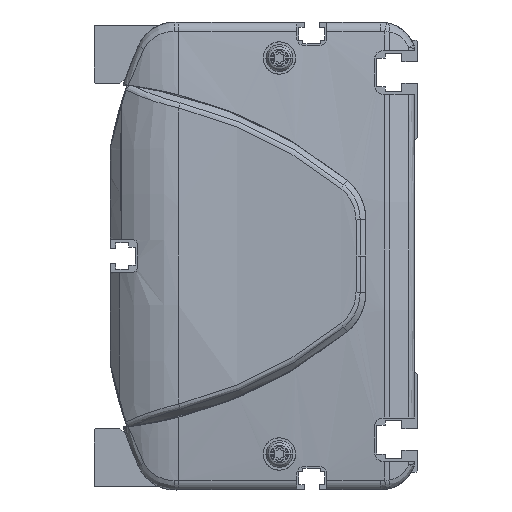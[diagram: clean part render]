
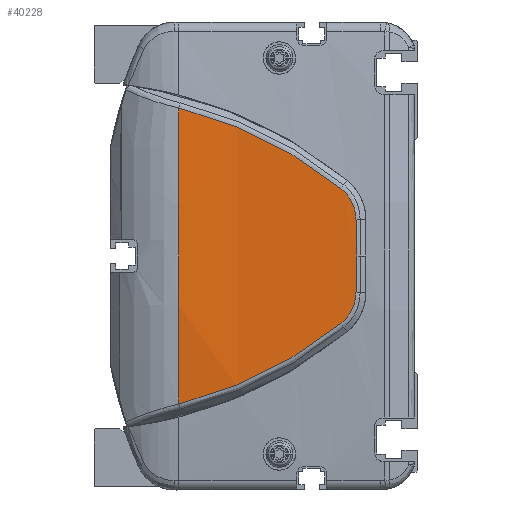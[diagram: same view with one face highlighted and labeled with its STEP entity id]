
A CAD part, left-side view. The second image highlights one B-rep face of the part: STEP entity #40228.
In plain terms, the highlighted cylindrical face has radius 500 mm (diameter 1000 mm), a partial arc.
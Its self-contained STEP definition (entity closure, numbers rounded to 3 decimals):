
#36484=CARTESIAN_POINT('',(486.,66.362,0.));
#36485=DIRECTION('',(0.,-1.,0.));
#36486=DIRECTION('',(-0.997,0.,0.082));
#36487=AXIS2_PLACEMENT_3D('',#36484,#36485,#36486);
#37368=CARTESIAN_POINT('',(-13.648,21.313,
-18.759));
#37369=CARTESIAN_POINT('',(-13.449,27.904,
-24.058));
#37370=CARTESIAN_POINT('',(-12.934,42.195,
-33.27));
#37371=CARTESIAN_POINT('',(-12.471,58.156,
-39.127));
#37372=CARTESIAN_POINT('',(-12.306,66.362,
-41.121));
#37374=CARTESIAN_POINT('',(-12.306,66.362,
41.121));
#37375=CARTESIAN_POINT('',(-12.471,58.156,
39.127));
#37376=CARTESIAN_POINT('',(-12.934,42.195,
33.27));
#37377=CARTESIAN_POINT('',(-13.449,27.904,
24.058));
#37378=CARTESIAN_POINT('',(-13.648,21.313,
18.759));
#37380=CARTESIAN_POINT('',(-13.648,21.313,
18.759));
#37381=CARTESIAN_POINT('',(-13.686,20.035,
17.736));
#37382=CARTESIAN_POINT('',(-13.779,17.936,
15.107));
#37383=CARTESIAN_POINT('',(-13.863,17.152,
11.827));
#37384=CARTESIAN_POINT('',(-13.896,17.124,
10.178));
#37386=CARTESIAN_POINT('',(-13.896,17.124,
10.178));
#37387=CARTESIAN_POINT('',(-13.92,17.107,
9.027));
#37388=CARTESIAN_POINT('',(-13.958,17.067,
6.738));
#37389=CARTESIAN_POINT('',(-13.993,16.98,
3.344));
#37390=CARTESIAN_POINT('',(-14.,16.898,
1.11));
#37391=CARTESIAN_POINT('',(-14.,16.849,
0.));
#37393=CARTESIAN_POINT('',(-14.,16.849,
0.));
#37394=CARTESIAN_POINT('',(-14.,16.898,
-1.11));
#37395=CARTESIAN_POINT('',(-13.993,16.98,
-3.344));
#37396=CARTESIAN_POINT('',(-13.959,17.067,
-6.737));
#37397=CARTESIAN_POINT('',(-13.92,17.107,
-9.029));
#37398=CARTESIAN_POINT('',(-13.896,17.124,
-10.18));
#37400=CARTESIAN_POINT('',(-13.896,17.124,
-10.18));
#37401=CARTESIAN_POINT('',(-13.863,17.152,
-11.828));
#37402=CARTESIAN_POINT('',(-13.779,17.937,
-15.109));
#37403=CARTESIAN_POINT('',(-13.686,20.035,
-17.736));
#37404=CARTESIAN_POINT('',(-13.648,21.313,
-18.759));
#38052=VERTEX_POINT('',#37368);
#38053=VERTEX_POINT('',#37372);
#38054=CARTESIAN_POINT('',(-12.306,66.362,
41.121));
#38055=VERTEX_POINT('',#38054);
#38056=VERTEX_POINT('',#37378);
#38057=VERTEX_POINT('',#37384);
#38058=VERTEX_POINT('',#37391);
#38059=VERTEX_POINT('',#37398);
#40209=CARTESIAN_POINT('',(486.,8.006,0.));
#40210=DIRECTION('',(0.,1.,0.));
#40211=DIRECTION('',(1.,0.,0.));
#40212=AXIS2_PLACEMENT_3D('',#40209,#40210,#40211);
#40213=CYLINDRICAL_SURFACE('',#40212,500.);
#40215=ORIENTED_EDGE('',*,*,#40214,.T.);
#40216=ORIENTED_EDGE('',*,*,#38854,.F.);
#40218=ORIENTED_EDGE('',*,*,#40217,.T.);
#40220=ORIENTED_EDGE('',*,*,#40219,.T.);
#40222=ORIENTED_EDGE('',*,*,#40221,.T.);
#40224=ORIENTED_EDGE('',*,*,#40223,.T.);
#40225=ORIENTED_EDGE('',*,*,#40199,.T.);
#40226=EDGE_LOOP('',(#40215,#40216,#40218,#40220,#40222,#40224,#40225));
#40227=FACE_OUTER_BOUND('',#40226,.F.);
#40228=ADVANCED_FACE('',(#40227),#40213,.T.);
#36488=CIRCLE('',#36487,500.);
#37373=B_SPLINE_CURVE_WITH_KNOTS('',3,(#37368,#37369,#37370,#37371,#37372),
.UNSPECIFIED.,.F.,.F.,(4,1,4),(0.,0.5,1.),.UNSPECIFIED.);
#37379=B_SPLINE_CURVE_WITH_KNOTS('',3,(#37374,#37375,#37376,#37377,#37378),
.UNSPECIFIED.,.F.,.F.,(4,1,4),(0.,0.5,1.),.UNSPECIFIED.);
#37385=B_SPLINE_CURVE_WITH_KNOTS('',3,(#37380,#37381,#37382,#37383,#37384),
.UNSPECIFIED.,.F.,.F.,(4,1,4),(0.,0.5,1.),.UNSPECIFIED.);
#37392=B_SPLINE_CURVE_WITH_KNOTS('',3,(#37386,#37387,#37388,#37389,#37390,
#37391),.UNSPECIFIED.,.F.,.F.,(4,1,1,4),(0.,0.333,
0.667,1.),.UNSPECIFIED.);
#37399=B_SPLINE_CURVE_WITH_KNOTS('',3,(#37393,#37394,#37395,#37396,#37397,
#37398),.UNSPECIFIED.,.F.,.F.,(4,1,1,4),(0.,0.333,
0.667,1.),.UNSPECIFIED.);
#37405=B_SPLINE_CURVE_WITH_KNOTS('',3,(#37400,#37401,#37402,#37403,#37404),
.UNSPECIFIED.,.F.,.F.,(4,1,4),(0.,0.5,1.),.UNSPECIFIED.);
#38854=EDGE_CURVE('',#38055,#38053,#36488,.T.);
#40199=EDGE_CURVE('',#38059,#38052,#37405,.T.);
#40214=EDGE_CURVE('',#38052,#38053,#37373,.T.);
#40217=EDGE_CURVE('',#38055,#38056,#37379,.T.);
#40219=EDGE_CURVE('',#38056,#38057,#37385,.T.);
#40221=EDGE_CURVE('',#38057,#38058,#37392,.T.);
#40223=EDGE_CURVE('',#38058,#38059,#37399,.T.);
